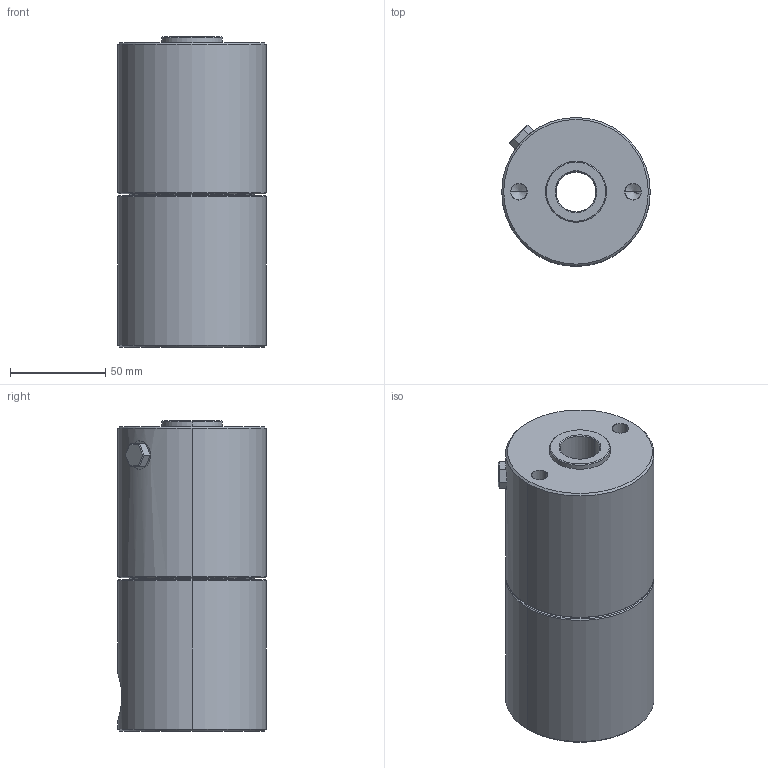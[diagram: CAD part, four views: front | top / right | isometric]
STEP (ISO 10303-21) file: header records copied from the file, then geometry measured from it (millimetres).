
FILE_DESCRIPTION (( 'STEP AP203' ), '1' );
FILE_NAME ('4610-413.STEP', '2016-01-29T10:15:38', ( '' ), ( '' ), 'SwSTEP 2.0', 'SolidWorks 2015', '' );
FILE_SCHEMA (( 'CONFIG_CONTROL_DESIGN' ));
Length unit declared in the file: millimetre
Products named in the file (1): 4610-413
Bounding box: 78 x 78 x 163 mm (x, y, z)
Volume: 702375.3 mm3; surface area: 63857.3 mm2
Topology: 1 solids, 2 shells, 71 faces, 152 edges, 86 vertices
Faces by surface type: cone 26, plane 21, cylinder 20, torus 4
Entity records: 2097 total; most frequent: CARTESIAN_POINT 486, DIRECTION 348, ORIENTED_EDGE 288, EDGE_CURVE 144, AXIS2_PLACEMENT_3D 136, VERTEX_POINT 86, EDGE_LOOP 82, VECTOR 76
